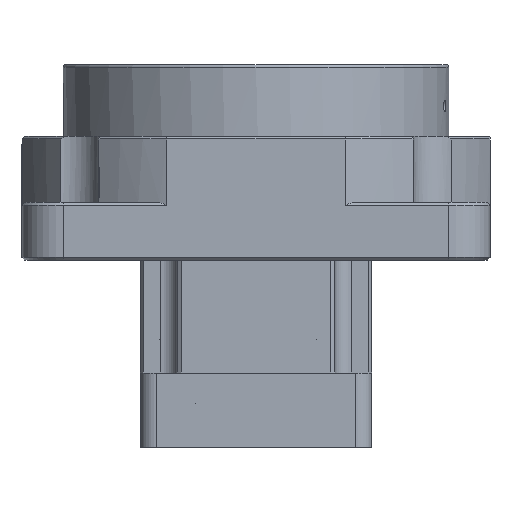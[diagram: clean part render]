
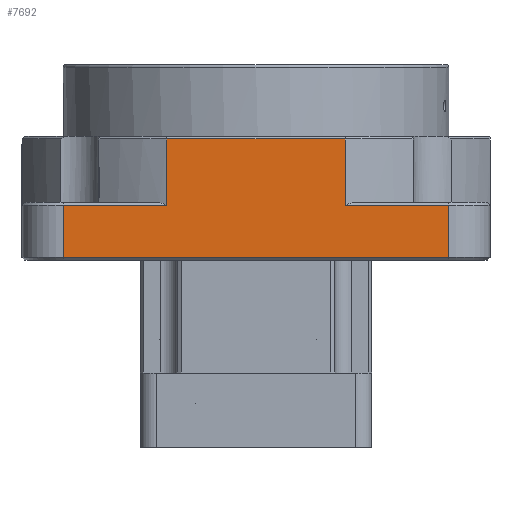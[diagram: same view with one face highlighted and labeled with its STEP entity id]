
A CAD part, left-side view. The second image highlights one B-rep face of the part: STEP entity #7692.
In plain terms, the highlighted planar face has unit normal (-1, 0, 0).
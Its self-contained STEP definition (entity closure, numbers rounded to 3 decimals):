
#5985=CARTESIAN_POINT('',(-42.5,16.248,22.));
#5986=VERTEX_POINT('',#5985);
#6011=CARTESIAN_POINT('',(-42.5,16.248,10.0));
#6012=VERTEX_POINT('',#6011);
#6020=CARTESIAN_POINT('',(-42.5,16.248,10.0));
#6021=DIRECTION('',(0.0,0.0,1.0));
#6022=VECTOR('',#6021,12.);
#6023=LINE('',#6020,#6022);
#6024=EDGE_CURVE('',#6012,#5986,#6023,.T.);
#6574=CARTESIAN_POINT('',(-42.5,-16.248,22.));
#6575=VERTEX_POINT('',#6574);
#6585=CARTESIAN_POINT('',(-42.5,-16.248,10.0));
#6586=VERTEX_POINT('',#6585);
#6587=CARTESIAN_POINT('',(-42.5,-16.248,22.));
#6588=DIRECTION('',(0.0,0.0,-1.0));
#6589=VECTOR('',#6588,12.);
#6590=LINE('',#6587,#6589);
#6591=EDGE_CURVE('',#6575,#6586,#6590,.T.);
#7574=CARTESIAN_POINT('',(-42.5,35.,0.5));
#7575=VERTEX_POINT('',#7574);
#7583=CARTESIAN_POINT('',(-42.5,35.,10.0));
#7584=VERTEX_POINT('',#7583);
#7585=CARTESIAN_POINT('',(-42.5,35.,0.5));
#7586=DIRECTION('',(0.0,0.0,1.0));
#7587=VECTOR('',#7586,9.5);
#7588=LINE('',#7585,#7587);
#7589=EDGE_CURVE('',#7575,#7584,#7588,.T.);
#7615=CARTESIAN_POINT('',(-42.5,35.,10.0));
#7616=DIRECTION('',(0.0,-1.0,0.0));
#7617=VECTOR('',#7616,18.752);
#7618=LINE('',#7615,#7617);
#7619=EDGE_CURVE('',#7584,#6012,#7618,.T.);
#7653=CARTESIAN_POINT('',(-42.5,42.5,0.0));
#7654=DIRECTION('',(-1.0,0.0,0.0));
#7655=DIRECTION('',(0.0,-1.0,0.0));
#7656=AXIS2_PLACEMENT_3D('',#7653,#7654,#7655);
#7657=PLANE('',#7656);
#7658=CARTESIAN_POINT('',(-42.5,-35.,0.5));
#7659=VERTEX_POINT('',#7658);
#7660=CARTESIAN_POINT('',(-42.5,-35.,0.5));
#7661=DIRECTION('',(0.0,1.0,0.0));
#7662=VECTOR('',#7661,70.0);
#7663=LINE('',#7660,#7662);
#7664=EDGE_CURVE('',#7659,#7575,#7663,.T.);
#7665=ORIENTED_EDGE('',*,*,#7664,.F.);
#7666=CARTESIAN_POINT('',(-42.5,-35.,10.0));
#7667=VERTEX_POINT('',#7666);
#7668=CARTESIAN_POINT('',(-42.5,-35.,10.0));
#7669=DIRECTION('',(0.0,0.0,-1.0));
#7670=VECTOR('',#7669,9.5);
#7671=LINE('',#7668,#7670);
#7672=EDGE_CURVE('',#7667,#7659,#7671,.T.);
#7673=ORIENTED_EDGE('',*,*,#7672,.F.);
#7674=CARTESIAN_POINT('',(-42.5,-16.248,10.0));
#7675=DIRECTION('',(0.0,-1.0,0.0));
#7676=VECTOR('',#7675,18.752);
#7677=LINE('',#7674,#7676);
#7678=EDGE_CURVE('',#6586,#7667,#7677,.T.);
#7679=ORIENTED_EDGE('',*,*,#7678,.F.);
#7680=ORIENTED_EDGE('',*,*,#6591,.F.);
#7681=CARTESIAN_POINT('',(-42.5,16.248,22.));
#7682=DIRECTION('',(0.0,-1.0,0.0));
#7683=VECTOR('',#7682,32.496);
#7684=LINE('',#7681,#7683);
#7685=EDGE_CURVE('',#5986,#6575,#7684,.T.);
#7686=ORIENTED_EDGE('',*,*,#7685,.F.);
#7687=ORIENTED_EDGE('',*,*,#6024,.F.);
#7688=ORIENTED_EDGE('',*,*,#7619,.F.);
#7689=ORIENTED_EDGE('',*,*,#7589,.F.);
#7690=EDGE_LOOP('',(#7665,#7673,#7679,#7680,#7686,#7687,#7688,#7689));
#7691=FACE_OUTER_BOUND('',#7690,.T.);
#7692=ADVANCED_FACE('',(#7691),#7657,.T.);
